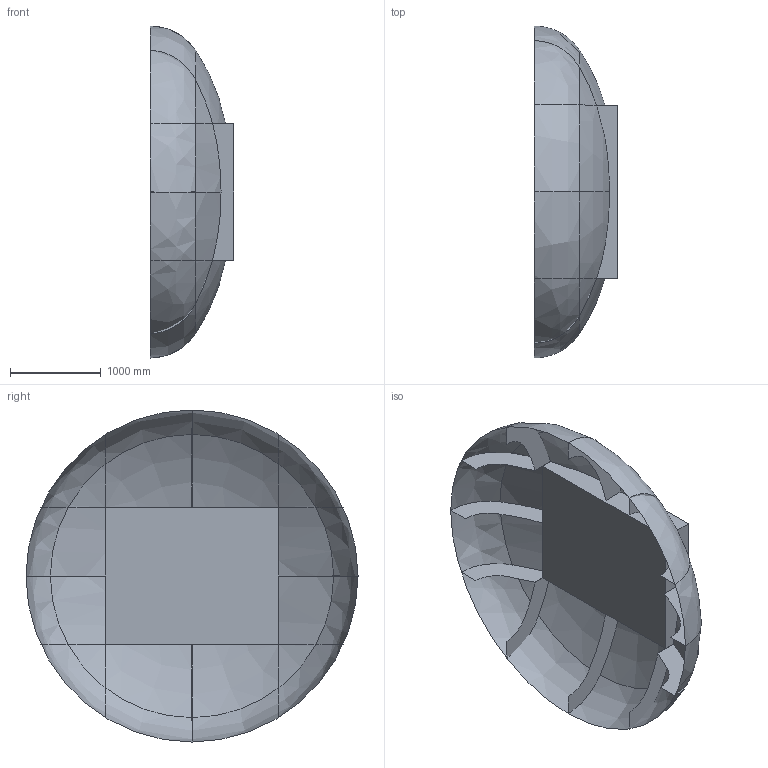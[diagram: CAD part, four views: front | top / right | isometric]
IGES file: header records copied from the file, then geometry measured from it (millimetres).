
Start section: SolidWorks IGES file using NURBS representation for surfaces
Global section: file name: C:\Documents and Settings\kkenady\Desktop\SV-100 SW Model\Shell Model\Head_ansys.IGS; native system: SolidWorks 2008; preprocessor: SolidWorks 2008; author: kkenady; date: 080527.175447; units: inch
Bounding box: 914.4 x 3654.43 x 3654.43 mm (x, y, z)
Surface area: 19777572.5 mm2 (no closed solid volume)
Topology: 0 solids, 0 shells, 21 faces, 117 edges, 116 vertices
Faces by surface type: bspline 21
